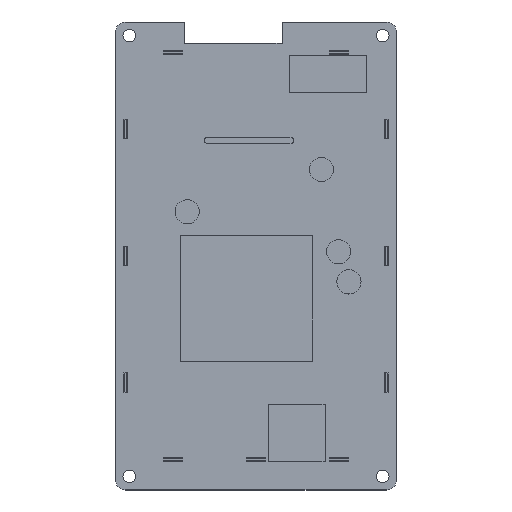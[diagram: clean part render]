
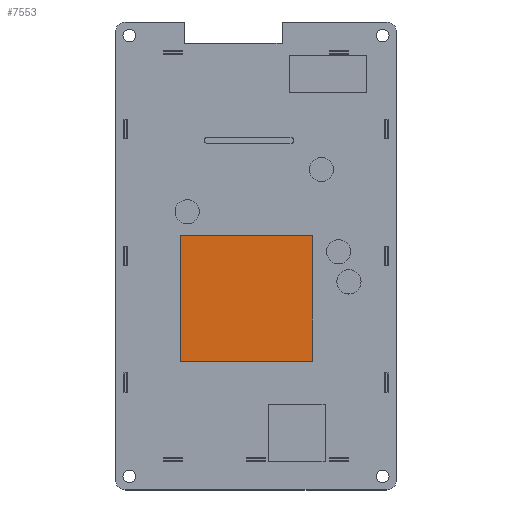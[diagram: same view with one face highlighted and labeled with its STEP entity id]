
A CAD part, top view. The second image highlights one B-rep face of the part: STEP entity #7553.
In plain terms, the highlighted planar face has unit normal (0, 0, 1).
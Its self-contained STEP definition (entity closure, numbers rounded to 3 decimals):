
#2429=DIRECTION('',(-1.,0.,0.));
#2430=VECTOR('',#2429,34.417);
#2431=CARTESIAN_POINT('',(14.783,5.334,5.2));
#2432=LINE('',#2431,#2430);
#2433=DIRECTION('',(0.,1.,0.));
#2434=VECTOR('',#2433,32.766);
#2435=CARTESIAN_POINT('',(14.783,-27.432,5.2));
#2436=LINE('',#2435,#2434);
#2437=DIRECTION('',(1.,0.,0.));
#2438=VECTOR('',#2437,34.417);
#2439=CARTESIAN_POINT('',(-19.634,-27.432,5.2));
#2440=LINE('',#2439,#2438);
#2441=DIRECTION('',(0.,-1.,0.));
#2442=VECTOR('',#2441,32.766);
#2443=CARTESIAN_POINT('',(-19.634,5.334,5.2));
#2444=LINE('',#2443,#2442);
#2853=CARTESIAN_POINT('',(14.783,5.334,5.2));
#2854=CARTESIAN_POINT('',(-19.634,5.334,5.2));
#2855=VERTEX_POINT('',#2853);
#2856=VERTEX_POINT('',#2854);
#2857=CARTESIAN_POINT('',(-19.634,-27.432,5.2));
#2858=VERTEX_POINT('',#2857);
#2859=CARTESIAN_POINT('',(14.783,-27.432,5.2));
#2860=VERTEX_POINT('',#2859);
#7542=CARTESIAN_POINT('',(-36.576,58.42,5.2));
#7543=DIRECTION('',(0.,0.,1.));
#7544=DIRECTION('',(0.,-1.,0.));
#7545=AXIS2_PLACEMENT_3D('',#7542,#7543,#7544);
#7546=PLANE('',#7545);
#7547=ORIENTED_EDGE('',*,*,#7494,.F.);
#7548=ORIENTED_EDGE('',*,*,#7509,.F.);
#7549=ORIENTED_EDGE('',*,*,#7523,.F.);
#7550=ORIENTED_EDGE('',*,*,#7536,.F.);
#7551=EDGE_LOOP('',(#7547,#7548,#7549,#7550));
#7552=FACE_OUTER_BOUND('',#7551,.F.);
#7494=EDGE_CURVE('',#2855,#2856,#2432,.T.);
#7509=EDGE_CURVE('',#2860,#2855,#2436,.T.);
#7523=EDGE_CURVE('',#2858,#2860,#2440,.T.);
#7536=EDGE_CURVE('',#2856,#2858,#2444,.T.);
#7553=ADVANCED_FACE('',(#7552),#7546,.T.);
